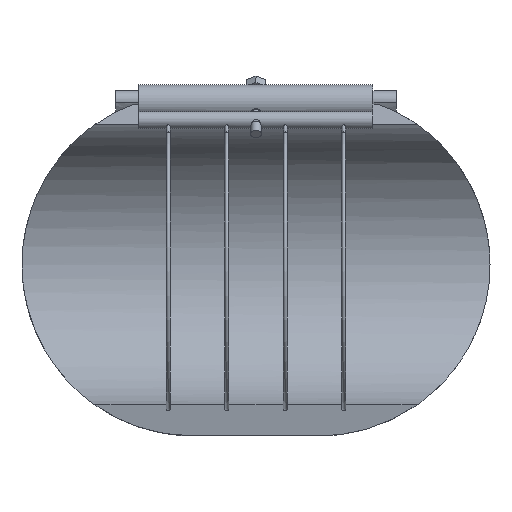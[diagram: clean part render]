
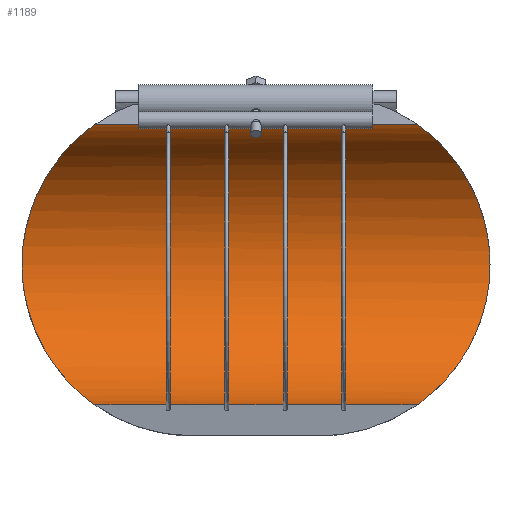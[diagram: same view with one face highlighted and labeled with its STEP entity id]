
A CAD part, front view. The second image highlights one B-rep face of the part: STEP entity #1189.
In plain terms, the highlighted cylindrical face has radius 80 mm (diameter 160 mm), a partial arc.
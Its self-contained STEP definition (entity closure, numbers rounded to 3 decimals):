
#125=FACE_OUTER_BOUND('',#203,.T.);
#203=EDGE_LOOP('',(#1060,#1061,#1062,#1063,#1064,#1065,#1066,#1067,#1068,
#1069));
#254=B_SPLINE_CURVE_WITH_KNOTS('',3,(#2674,#2675,#2676,#2677,#2678,#2679,
#2680,#2681,#2682,#2683,#2684,#2685,#2686,#2687,#2688,#2689,#2690,#2691),
 .UNSPECIFIED.,.F.,.F.,(4,2,2,2,2,2,2,2,4),(27.516,27.762,
29.427,31.091,32.756,34.353,35.951,
37.549,39.147),.UNSPECIFIED.);
#255=B_SPLINE_CURVE_WITH_KNOTS('',3,(#2692,#2693,#2694,#2695,#2696,#2697,
#2698,#2699,#2700,#2701,#2702,#2703,#2704,#2705,#2706,#2707,#2708,#2709),
 .UNSPECIFIED.,.F.,.F.,(4,2,2,2,2,2,2,2,4),(39.147,40.745,
42.343,43.94,45.538,47.203,48.867,
50.531,50.778),.UNSPECIFIED.);
#260=B_SPLINE_CURVE_WITH_KNOTS('',3,(#2821,#2822,#2823,#2824,#2825,#2826,
#2827,#2828,#2829,#2830,#2831,#2832,#2833,#2834,#2835,#2836,#2837,#2838),
 .UNSPECIFIED.,.F.,.F.,(4,2,2,2,2,2,2,2,4),(1.418,1.664,
3.329,4.993,6.658,8.256,9.853,
11.451,13.049),.UNSPECIFIED.);
#261=B_SPLINE_CURVE_WITH_KNOTS('',3,(#2840,#2841,#2842,#2843,#2844,#2845,
#2846,#2847,#2848,#2849,#2850,#2851,#2852,#2853,#2854,#2855,#2856,#2857),
 .UNSPECIFIED.,.F.,.F.,(4,2,2,2,2,2,2,2,4),(13.049,14.647,
16.245,17.842,19.44,21.105,22.769,
24.434,24.68),.UNSPECIFIED.);
#338=LINE('',#1983,#399);
#339=LINE('',#1986,#400);
#340=LINE('',#1989,#401);
#341=LINE('',#1991,#402);
#342=LINE('',#1992,#403);
#386=LINE('',#2899,#447);
#399=VECTOR('',#1398,10.);
#400=VECTOR('',#1401,10.);
#401=VECTOR('',#1404,10.);
#402=VECTOR('',#1407,10.);
#403=VECTOR('',#1408,10.);
#447=VECTOR('',#1648,10.);
#475=VERTEX_POINT('',#1971);
#477=VERTEX_POINT('',#1976);
#479=VERTEX_POINT('',#1980);
#480=VERTEX_POINT('',#1982);
#481=VERTEX_POINT('',#1985);
#482=VERTEX_POINT('',#1988);
#552=VERTEX_POINT('',#2671);
#553=VERTEX_POINT('',#2673);
#558=VERTEX_POINT('',#2820);
#559=VERTEX_POINT('',#2839);
#600=EDGE_CURVE('',#480,#479,#338,.T.);
#602=EDGE_CURVE('',#481,#480,#339,.T.);
#604=EDGE_CURVE('',#482,#481,#340,.T.);
#606=EDGE_CURVE('',#475,#482,#341,.T.);
#607=EDGE_CURVE('',#477,#475,#342,.T.);
#725=EDGE_CURVE('',#552,#553,#254,.T.);
#726=EDGE_CURVE('',#553,#479,#255,.T.);
#731=EDGE_CURVE('',#477,#558,#260,.T.);
#732=EDGE_CURVE('',#558,#559,#261,.T.);
#736=EDGE_CURVE('',#552,#559,#386,.T.);
#1060=ORIENTED_EDGE('',*,*,#731,.F.);
#1061=ORIENTED_EDGE('',*,*,#607,.T.);
#1062=ORIENTED_EDGE('',*,*,#606,.T.);
#1063=ORIENTED_EDGE('',*,*,#604,.T.);
#1064=ORIENTED_EDGE('',*,*,#602,.T.);
#1065=ORIENTED_EDGE('',*,*,#600,.T.);
#1066=ORIENTED_EDGE('',*,*,#726,.F.);
#1067=ORIENTED_EDGE('',*,*,#725,.F.);
#1068=ORIENTED_EDGE('',*,*,#736,.T.);
#1069=ORIENTED_EDGE('',*,*,#732,.F.);
#1130=CYLINDRICAL_SURFACE('',#1337,80.);
#1189=ADVANCED_FACE('',(#125),#1130,.F.);
#1337=AXIS2_PLACEMENT_3D('',#2898,#1646,#1647);
#1398=DIRECTION('',(1.,0.,0.));
#1401=DIRECTION('',(1.,0.,0.));
#1404=DIRECTION('',(1.,0.,0.));
#1407=DIRECTION('',(1.,0.,0.));
#1408=DIRECTION('',(1.,0.,0.));
#1646=DIRECTION('center_axis',(1.,0.,0.));
#1647=DIRECTION('ref_axis',(0.,1.,0.));
#1648=DIRECTION('',(-1.,0.,0.));
#1971=CARTESIAN_POINT('',(-49.313,13.892,-78.785));
#1976=CARTESIAN_POINT('',(-90.515,13.892,-78.785));
#1980=CARTESIAN_POINT('',(90.515,13.892,-78.785));
#1982=CARTESIAN_POINT('',(49.313,13.892,-78.785));
#1983=CARTESIAN_POINT('',(0.,13.892,-78.785));
#1985=CARTESIAN_POINT('',(16.438,13.892,-78.785));
#1986=CARTESIAN_POINT('',(0.,13.892,-78.785));
#1988=CARTESIAN_POINT('',(-16.438,13.892,-78.785));
#1989=CARTESIAN_POINT('',(0.,13.892,-78.785));
#1991=CARTESIAN_POINT('',(0.,13.892,-78.785));
#1992=CARTESIAN_POINT('',(0.,13.892,-78.785));
#2671=CARTESIAN_POINT('',(90.515,13.892,78.785));
#2673=CARTESIAN_POINT('',(131.5,80.,0.));
#2674=CARTESIAN_POINT('Ctrl Pts',(90.515,13.892,78.785));
#2675=CARTESIAN_POINT('Ctrl Pts',(90.713,14.677,78.646));
#2676=CARTESIAN_POINT('Ctrl Pts',(90.925,15.457,78.496));
#2677=CARTESIAN_POINT('Ctrl Pts',(92.675,21.48,77.248));
#2678=CARTESIAN_POINT('Ctrl Pts',(94.82,26.537,75.651));
#2679=CARTESIAN_POINT('Ctrl Pts',(99.683,36.151,71.557));
#2680=CARTESIAN_POINT('Ctrl Pts',(102.398,40.71,69.057));
#2681=CARTESIAN_POINT('Ctrl Pts',(107.846,49.175,63.309));
#2682=CARTESIAN_POINT('Ctrl Pts',(110.578,53.079,60.058));
#2683=CARTESIAN_POINT('Ctrl Pts',(115.549,59.918,53.219));
#2684=CARTESIAN_POINT('Ctrl Pts',(117.987,63.132,49.402));
#2685=CARTESIAN_POINT('Ctrl Pts',(122.475,68.906,40.965));
#2686=CARTESIAN_POINT('Ctrl Pts',(124.522,71.467,36.345));
#2687=CARTESIAN_POINT('Ctrl Pts',(127.911,75.655,26.546));
#2688=CARTESIAN_POINT('Ctrl Pts',(129.254,77.287,21.356));
#2689=CARTESIAN_POINT('Ctrl Pts',(131.049,79.46,10.746));
#2690=CARTESIAN_POINT('Ctrl Pts',(131.5,80.,5.326));
#2691=CARTESIAN_POINT('Ctrl Pts',(131.5,80.,0.));
#2692=CARTESIAN_POINT('Ctrl Pts',(131.5,80.,0.));
#2693=CARTESIAN_POINT('Ctrl Pts',(131.5,80.,-5.326));
#2694=CARTESIAN_POINT('Ctrl Pts',(131.049,79.46,-10.746));
#2695=CARTESIAN_POINT('Ctrl Pts',(129.254,77.287,-21.356));
#2696=CARTESIAN_POINT('Ctrl Pts',(127.911,75.655,-26.546));
#2697=CARTESIAN_POINT('Ctrl Pts',(124.522,71.467,-36.345));
#2698=CARTESIAN_POINT('Ctrl Pts',(122.475,68.906,-40.965));
#2699=CARTESIAN_POINT('Ctrl Pts',(117.987,63.132,-49.402));
#2700=CARTESIAN_POINT('Ctrl Pts',(115.549,59.918,-53.219));
#2701=CARTESIAN_POINT('Ctrl Pts',(110.578,53.079,-60.058));
#2702=CARTESIAN_POINT('Ctrl Pts',(107.846,49.175,-63.309));
#2703=CARTESIAN_POINT('Ctrl Pts',(102.398,40.71,-69.057));
#2704=CARTESIAN_POINT('Ctrl Pts',(99.683,36.151,-71.557));
#2705=CARTESIAN_POINT('Ctrl Pts',(94.82,26.537,-75.651));
#2706=CARTESIAN_POINT('Ctrl Pts',(92.675,21.48,-77.248));
#2707=CARTESIAN_POINT('Ctrl Pts',(90.925,15.457,-78.496));
#2708=CARTESIAN_POINT('Ctrl Pts',(90.713,14.677,-78.646));
#2709=CARTESIAN_POINT('Ctrl Pts',(90.515,13.892,-78.785));
#2820=CARTESIAN_POINT('',(-131.5,80.,0.));
#2821=CARTESIAN_POINT('Ctrl Pts',(-90.515,13.892,-78.785));
#2822=CARTESIAN_POINT('Ctrl Pts',(-90.713,14.677,-78.646));
#2823=CARTESIAN_POINT('Ctrl Pts',(-90.925,15.457,-78.496));
#2824=CARTESIAN_POINT('Ctrl Pts',(-92.675,21.48,-77.248));
#2825=CARTESIAN_POINT('Ctrl Pts',(-94.82,26.537,-75.651));
#2826=CARTESIAN_POINT('Ctrl Pts',(-99.683,36.151,-71.557));
#2827=CARTESIAN_POINT('Ctrl Pts',(-102.398,40.71,-69.057));
#2828=CARTESIAN_POINT('Ctrl Pts',(-107.846,49.175,-63.309));
#2829=CARTESIAN_POINT('Ctrl Pts',(-110.578,53.079,-60.058));
#2830=CARTESIAN_POINT('Ctrl Pts',(-115.549,59.918,-53.219));
#2831=CARTESIAN_POINT('Ctrl Pts',(-117.987,63.132,-49.402));
#2832=CARTESIAN_POINT('Ctrl Pts',(-122.475,68.906,-40.965));
#2833=CARTESIAN_POINT('Ctrl Pts',(-124.522,71.467,-36.345));
#2834=CARTESIAN_POINT('Ctrl Pts',(-127.911,75.655,-26.546));
#2835=CARTESIAN_POINT('Ctrl Pts',(-129.254,77.287,-21.356));
#2836=CARTESIAN_POINT('Ctrl Pts',(-131.049,79.46,-10.746));
#2837=CARTESIAN_POINT('Ctrl Pts',(-131.5,80.,-5.326));
#2838=CARTESIAN_POINT('Ctrl Pts',(-131.5,80.,0.));
#2839=CARTESIAN_POINT('',(-90.515,13.892,78.785));
#2840=CARTESIAN_POINT('Ctrl Pts',(-131.5,80.,0.));
#2841=CARTESIAN_POINT('Ctrl Pts',(-131.5,80.,5.326));
#2842=CARTESIAN_POINT('Ctrl Pts',(-131.049,79.46,10.746));
#2843=CARTESIAN_POINT('Ctrl Pts',(-129.254,77.287,21.356));
#2844=CARTESIAN_POINT('Ctrl Pts',(-127.911,75.655,26.546));
#2845=CARTESIAN_POINT('Ctrl Pts',(-124.522,71.467,36.345));
#2846=CARTESIAN_POINT('Ctrl Pts',(-122.475,68.906,40.965));
#2847=CARTESIAN_POINT('Ctrl Pts',(-117.987,63.132,49.402));
#2848=CARTESIAN_POINT('Ctrl Pts',(-115.549,59.918,53.219));
#2849=CARTESIAN_POINT('Ctrl Pts',(-110.578,53.079,60.058));
#2850=CARTESIAN_POINT('Ctrl Pts',(-107.846,49.175,63.309));
#2851=CARTESIAN_POINT('Ctrl Pts',(-102.398,40.71,69.057));
#2852=CARTESIAN_POINT('Ctrl Pts',(-99.683,36.151,71.557));
#2853=CARTESIAN_POINT('Ctrl Pts',(-94.82,26.537,75.651));
#2854=CARTESIAN_POINT('Ctrl Pts',(-92.675,21.48,77.248));
#2855=CARTESIAN_POINT('Ctrl Pts',(-90.925,15.457,78.496));
#2856=CARTESIAN_POINT('Ctrl Pts',(-90.713,14.677,78.646));
#2857=CARTESIAN_POINT('Ctrl Pts',(-90.515,13.892,78.785));
#2898=CARTESIAN_POINT('Origin',(0.,0.,0.));
#2899=CARTESIAN_POINT('',(0.,13.892,78.785));
